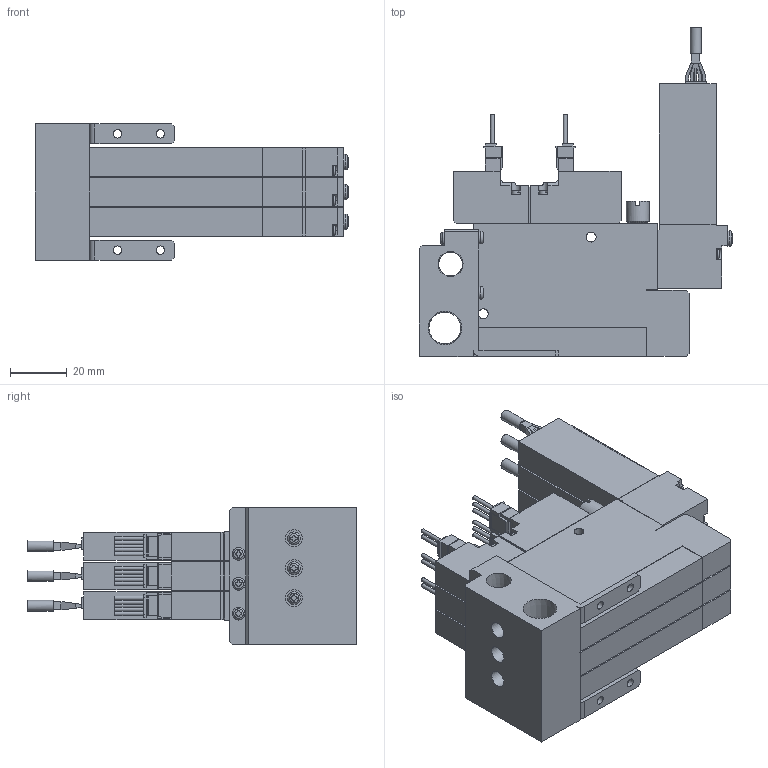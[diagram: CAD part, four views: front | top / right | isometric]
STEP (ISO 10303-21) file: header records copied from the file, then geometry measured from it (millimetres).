
FILE_DESCRIPTION(('STEP AP203'),'1');
FILE_NAME('V9C5WC303_3D.stp','2024-09-04T09:42:21',(' '),(' '),'Spatial InterOp 3D',' ',' ');
FILE_SCHEMA(('CONFIG_CONTROL_DESIGN'));
Length unit declared in the file: millimetre
Products named in the file (5): BSC1M※※V9C5WC303; Solenoid valve W; Pressure Sensor V9; Unit-C; BaseMC30R
Assembly tree (10 placements, depth 2):
  BSC1M※※V9C5WC303
    Solenoid valve W  x3
    Pressure Sensor V9  x3
    Unit-C  x3
    BaseMC30R
Bounding box: 110.35 x 115.8 x 48 mm (x, y, z)
Volume: 206852.2 mm3; surface area: 72202 mm2
Topology: 10 solids, 10 shells, 1344 faces, 3624 edges, 2388 vertices
Faces by surface type: plane 1028, cylinder 253, cone 25, sphere 19, torus 19
Full cylindrical faces by diameter (mm): 1.4 x15, 2.5 x6, 3 x16, 3.5 x24, 3.8 x3, 4 x3, 4.134 x6, 4.5 x10, 5.5 x6, 6 x3, 7 x6, 8 x3, 8.422 x1, 11.233 x1
Entity records: 18260 total; most frequent: CARTESIAN_POINT 3924, DIRECTION 2855, ORIENTED_EDGE 2812, EDGE_CURVE 1406, LINE 1013, VECTOR 1013, VERTEX_POINT 979, AXIS2_PLACEMENT_3D 921
